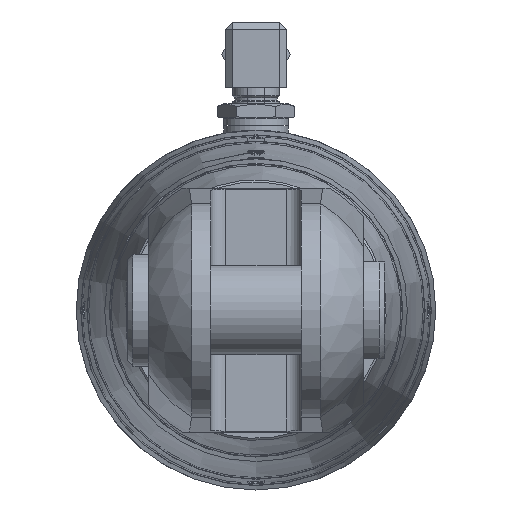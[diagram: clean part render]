
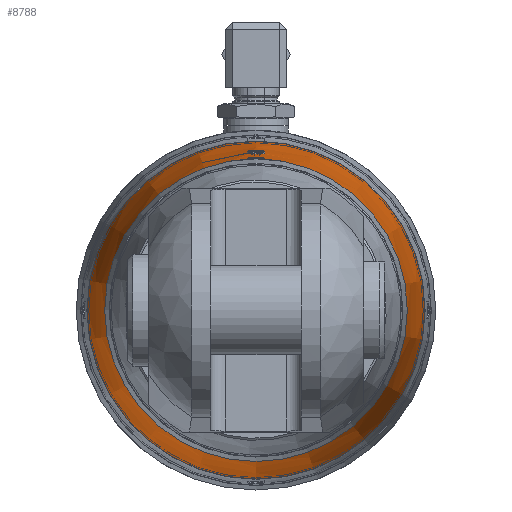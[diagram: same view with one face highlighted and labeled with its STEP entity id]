
A CAD part, left-side view. The second image highlights one B-rep face of the part: STEP entity #8788.
In plain terms, the highlighted conical face has half-angle 5 degrees and reference radius 45.508 mm.
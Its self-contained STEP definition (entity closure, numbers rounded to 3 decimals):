
#52=CONICAL_SURFACE('',#9410,45.508,0.087);
#711=LINE('',#13544,#1290);
#1290=VECTOR('',#10665,45.508);
#2274=FACE_BOUND('',#2951,.T.);
#2438=FACE_OUTER_BOUND('',#2950,.T.);
#2950=EDGE_LOOP('',(#6475,#6476,#6477,#6478,#6479,#6480));
#2951=EDGE_LOOP('',(#6481,#6482));
#3489=CIRCLE('',#9403,43.);
#3490=CIRCLE('',#9404,43.);
#3491=CIRCLE('',#9406,47.972);
#3492=CIRCLE('',#9407,47.972);
#3876=B_SPLINE_CURVE_WITH_KNOTS('',3,(#13229,#13230,#13231,#13232,#13233,
#13234,#13235,#13236,#13237,#13238,#13239,#13240,#13241,#13242,#13243,#13244,
#13245,#13246,#13247,#13248,#13249,#13250,#13251,#13252,#13253,#13254,#13255,
#13256),.UNSPECIFIED.,.F.,.F.,(4,2,2,2,2,2,2,2,2,2,2,2,2,4),(0.,0.094,
0.188,0.282,0.376,0.47,
0.564,0.658,0.752,0.847,
0.942,1.036,1.131,1.2),
 .UNSPECIFIED.);
#3877=B_SPLINE_CURVE_WITH_KNOTS('',3,(#13257,#13258,#13259,#13260,#13261,
#13262,#13263,#13264,#13265,#13266),.UNSPECIFIED.,.F.,.F.,(4,2,2,2,4),(1.2,
1.226,1.32,1.415,1.51),
 .UNSPECIFIED.);
#3997=VERTEX_POINT('',#13227);
#3998=VERTEX_POINT('',#13228);
#4072=VERTEX_POINT('',#13528);
#4073=VERTEX_POINT('',#13529);
#4074=VERTEX_POINT('',#13534);
#4075=VERTEX_POINT('',#13535);
#4869=EDGE_CURVE('',#3997,#3998,#3876,.T.);
#4870=EDGE_CURVE('',#3998,#3997,#3877,.T.);
#4987=EDGE_CURVE('',#4072,#4073,#3489,.T.);
#4989=EDGE_CURVE('',#4073,#4072,#3490,.T.);
#4990=EDGE_CURVE('',#4074,#4075,#3491,.T.);
#4991=EDGE_CURVE('',#4075,#4074,#3492,.T.);
#4995=EDGE_CURVE('',#4075,#4073,#711,.T.);
#6475=ORIENTED_EDGE('',*,*,#4990,.F.);
#6476=ORIENTED_EDGE('',*,*,#4991,.F.);
#6477=ORIENTED_EDGE('',*,*,#4995,.T.);
#6478=ORIENTED_EDGE('',*,*,#4987,.F.);
#6479=ORIENTED_EDGE('',*,*,#4989,.F.);
#6480=ORIENTED_EDGE('',*,*,#4995,.F.);
#6481=ORIENTED_EDGE('',*,*,#4869,.T.);
#6482=ORIENTED_EDGE('',*,*,#4870,.T.);
#8788=ADVANCED_FACE('',(#2438,#2274),#52,.T.);
#9403=AXIS2_PLACEMENT_3D('',#13530,#10647,#10648);
#9404=AXIS2_PLACEMENT_3D('',#13532,#10650,#10651);
#9406=AXIS2_PLACEMENT_3D('',#13536,#10654,#10655);
#9407=AXIS2_PLACEMENT_3D('',#13537,#10656,#10657);
#9410=AXIS2_PLACEMENT_3D('',#13543,#10663,#10664);
#10647=DIRECTION('center_axis',(-1.,0.,0.));
#10648=DIRECTION('ref_axis',(0.,0.,
-1.));
#10650=DIRECTION('center_axis',(-1.,0.,0.));
#10651=DIRECTION('ref_axis',(0.,0.,
-1.));
#10654=DIRECTION('center_axis',(1.,0.,0.));
#10655=DIRECTION('ref_axis',(0.,0.,
-1.));
#10656=DIRECTION('center_axis',(1.,0.,0.));
#10657=DIRECTION('ref_axis',(0.,0.,
-1.));
#10663=DIRECTION('center_axis',(1.,0.,0.));
#10664=DIRECTION('ref_axis',(0.,0.,
1.));
#10665=DIRECTION('',(-0.996,0.,0.087));
#13227=CARTESIAN_POINT('',(-669.512,-2.5,44.555));
#13228=CARTESIAN_POINT('',(-667.103,-0.711,44.83));
#13229=CARTESIAN_POINT('Ctrl Pts',(-669.512,-2.5,
44.555));
#13230=CARTESIAN_POINT('Ctrl Pts',(-669.825,-2.498,
44.527));
#13231=CARTESIAN_POINT('Ctrl Pts',(-670.158,-2.435,
44.502));
#13232=CARTESIAN_POINT('Ctrl Pts',(-670.772,-2.178,
44.461));
#13233=CARTESIAN_POINT('Ctrl Pts',(-671.052,-1.985,
44.446));
#13234=CARTESIAN_POINT('Ctrl Pts',(-671.493,-1.541,
44.425));
#13235=CARTESIAN_POINT('Ctrl Pts',(-671.684,-1.261,44.418));
#13236=CARTESIAN_POINT('Ctrl Pts',(-671.938,-0.647,
44.409));
#13237=CARTESIAN_POINT('Ctrl Pts',(-672.,-0.313,
44.407));
#13238=CARTESIAN_POINT('Ctrl Pts',(-672.,0.313,
44.407));
#13239=CARTESIAN_POINT('Ctrl Pts',(-671.938,0.647,
44.409));
#13240=CARTESIAN_POINT('Ctrl Pts',(-671.684,1.261,44.418));
#13241=CARTESIAN_POINT('Ctrl Pts',(-671.493,1.541,44.425));
#13242=CARTESIAN_POINT('Ctrl Pts',(-671.052,1.985,44.446));
#13243=CARTESIAN_POINT('Ctrl Pts',(-670.772,2.178,44.461));
#13244=CARTESIAN_POINT('Ctrl Pts',(-670.158,2.435,44.502));
#13245=CARTESIAN_POINT('Ctrl Pts',(-669.825,2.498,44.527));
#13246=CARTESIAN_POINT('Ctrl Pts',(-669.197,2.502,44.582));
#13247=CARTESIAN_POINT('Ctrl Pts',(-668.861,2.44,44.615));
#13248=CARTESIAN_POINT('Ctrl Pts',(-668.242,2.186,44.683));
#13249=CARTESIAN_POINT('Ctrl Pts',(-667.96,1.994,44.717));
#13250=CARTESIAN_POINT('Ctrl Pts',(-667.514,1.55,44.773));
#13251=CARTESIAN_POINT('Ctrl Pts',(-667.32,1.269,44.8));
#13252=CARTESIAN_POINT('Ctrl Pts',(-667.063,0.652,
44.835));
#13253=CARTESIAN_POINT('Ctrl Pts',(-667.,0.316,
44.845));
#13254=CARTESIAN_POINT('Ctrl Pts',(-667.,-0.232,
44.845));
#13255=CARTESIAN_POINT('Ctrl Pts',(-667.033,-0.476,
44.84));
#13256=CARTESIAN_POINT('Ctrl Pts',(-667.103,-0.711,
44.83));
#13257=CARTESIAN_POINT('Ctrl Pts',(-667.103,-0.711,
44.83));
#13258=CARTESIAN_POINT('Ctrl Pts',(-667.128,-0.795,44.826));
#13259=CARTESIAN_POINT('Ctrl Pts',(-667.158,-0.879,
44.822));
#13260=CARTESIAN_POINT('Ctrl Pts',(-667.32,-1.269,
44.8));
#13261=CARTESIAN_POINT('Ctrl Pts',(-667.514,-1.55,
44.773));
#13262=CARTESIAN_POINT('Ctrl Pts',(-667.96,-1.994,
44.717));
#13263=CARTESIAN_POINT('Ctrl Pts',(-668.242,-2.186,
44.683));
#13264=CARTESIAN_POINT('Ctrl Pts',(-668.861,-2.44,44.615));
#13265=CARTESIAN_POINT('Ctrl Pts',(-669.197,-2.502,44.582));
#13266=CARTESIAN_POINT('Ctrl Pts',(-669.512,-2.5,
44.555));
#13528=CARTESIAN_POINT('',(-688.083,0.,43.));
#13529=CARTESIAN_POINT('',(-688.083,0.,-43.));
#13530=CARTESIAN_POINT('Origin',(-688.083,0.,
0.));
#13532=CARTESIAN_POINT('Origin',(-688.083,0.,
0.));
#13534=CARTESIAN_POINT('',(-631.248,0.,47.972));
#13535=CARTESIAN_POINT('',(-631.248,0.,-47.972));
#13536=CARTESIAN_POINT('Origin',(-631.248,0.,
0.));
#13537=CARTESIAN_POINT('Origin',(-631.248,0.,
0.));
#13543=CARTESIAN_POINT('Origin',(-659.417,0.,
0.));
#13544=CARTESIAN_POINT('',(-659.417,0.,-45.508));
